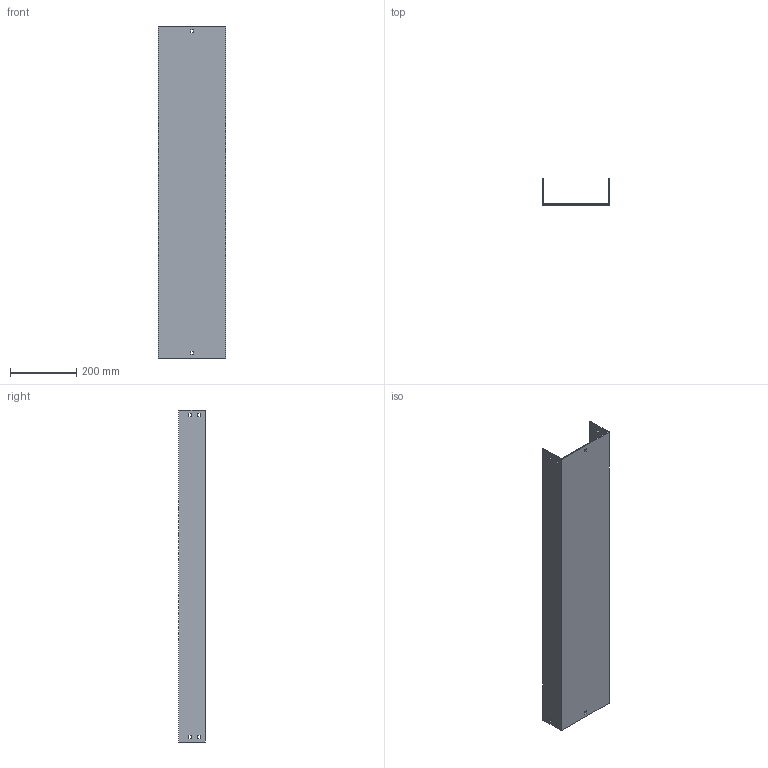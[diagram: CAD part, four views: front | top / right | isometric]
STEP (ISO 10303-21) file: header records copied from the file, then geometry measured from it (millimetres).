
FILE_DESCRIPTION (( 'STEP AP214' ), '1' );
FILE_NAME ('03F1C200.step', '2025-02-21T13:31:19', ( '' ), ( '' ), 'SwSTEP 2.0', 'SolidWorks 2023', '' );
FILE_SCHEMA (( 'AUTOMOTIVE_DESIGN' ));
Length unit declared in the file: millimetre
Products named in the file (1): 03F1C200
Bounding box: 204 x 79 x 1000 mm (x, y, z)
Volume: 1240130.5 mm3; surface area: 719300 mm2
Topology: 1 solids, 1 shells, 50 faces, 144 edges, 96 vertices
Faces by surface type: plane 50
Entity records: 1671 total; most frequent: CARTESIAN_POINT 291, ORIENTED_EDGE 288, DIRECTION 246, VECTOR 144, EDGE_CURVE 144, LINE 144, VERTEX_POINT 96, EDGE_LOOP 70
